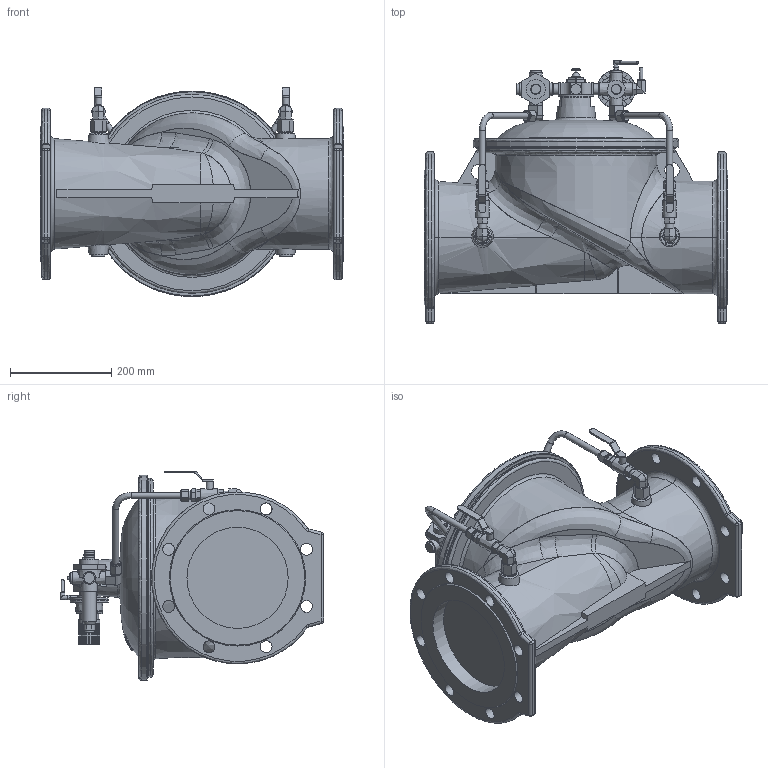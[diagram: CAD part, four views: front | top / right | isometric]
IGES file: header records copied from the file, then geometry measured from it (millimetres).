
Start section: SolidWorks IGES file using analytic representation for surfaces
Global section: file name: \\avksan2\techshare\PBM outline export from Enovia\O_859_00_DN200_0XXXX00_REV02.igs; native system: SolidWorks 2019; preprocessor: SolidWorks 2019; author: pbm; date: 201015.094624; units: millimetre
Bounding box: 600 x 520 x 413.39 mm (x, y, z)
Surface area: 1189559.8 mm2 (no closed solid volume)
Topology: 0 solids, 0 shells, 923 faces, 4445 edges, 4314 vertices
Faces by surface type: bspline 581, revolution 342
